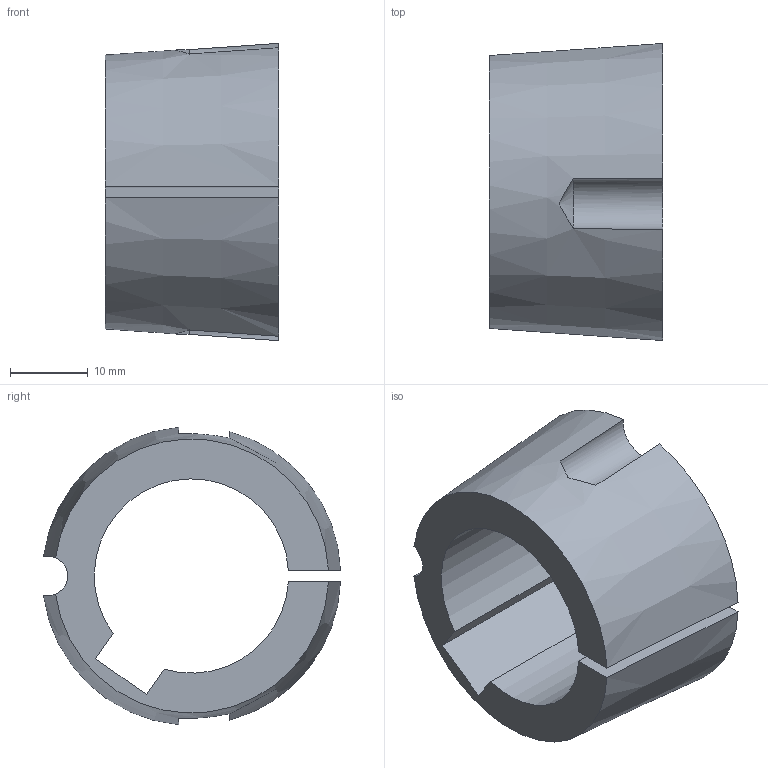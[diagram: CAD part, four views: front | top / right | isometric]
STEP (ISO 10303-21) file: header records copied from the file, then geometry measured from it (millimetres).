
FILE_DESCRIPTION( ( 'STEP AP203' ), '1' );
FILE_NAME( 'D:/export/antriebselemente/spannbuchsen_und_spannsaetze/taper-spannbuchsen_1008_bis_5050/taper-spannbuchsen_62250225Isometric_32.stp', '2018-12-11T11:10:59', ( '' ), ( '' ), ' ', 'PARTsolutions', ' ' );
FILE_SCHEMA( ( 'CONFIG_CONTROL_DESIGN' ) );
Length unit declared in the file: millimetre
Products named in the file (1): _taper-spannbuchsen_62250225
Bounding box: 22.3 x 38.22 x 38.26 mm (x, y, z)
Volume: 11358 mm3; surface area: 5892.5 mm2
Topology: 1 solids, 1 shells, 16 faces, 42 edges, 28 vertices
Faces by surface type: plane 7, cylinder 5, cone 4
Entity records: 602 total; most frequent: CARTESIAN_POINT 163, ORIENTED_EDGE 84, DIRECTION 82, EDGE_CURVE 42, AXIS2_PLACEMENT_3D 33, VERTEX_POINT 28, ADVANCED_FACE 16, FACE_OUTER_BOUND 16
